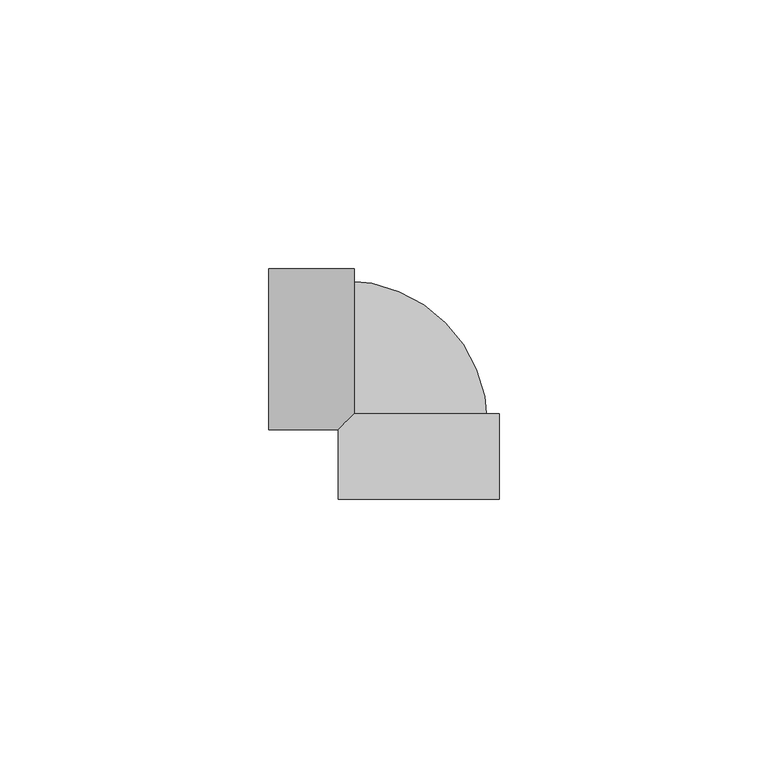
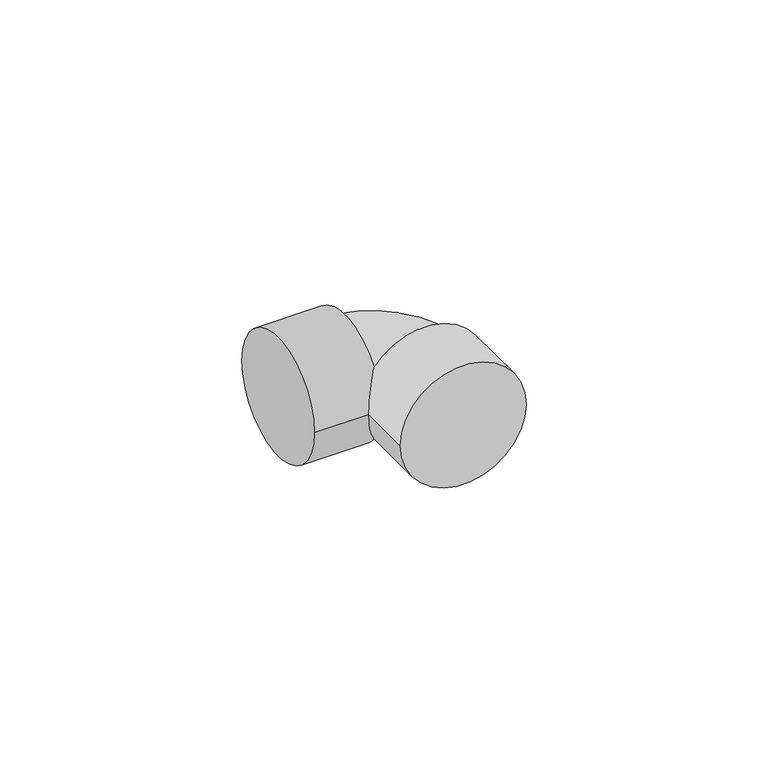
"""IFC4 building model written with IfcOpenShell, lengths in millimetres: pipe fitting geometry, 01011001 : Joelho a 90º."""

from ifc_helpers import new_model, si_unit, point, frame, origin, place, context, project, spatial, circle_curve, ellipse_curve, trimmed, source, transform, mapped, element, save
from ifc_brep_helpers import plane_surface, cylinder_surface, revolved_surface, advanced_brep


def pipe_fitting_4348b1cc(model_context):
    return source(origin(), model_context, "Body", "AdvancedBrep", [
        advanced_brep(
        [(-15.0, -28.0, 0.0), (15.0, -28.0, 0.0), (-12.0, -12.0, -9.0), (-12.0, -12.0, 9.0), (15.0, -12.0, 0.0), (-15.0, -15.0, 0.0), (-28.0, 15.0, 0.0), (-28.0, -15.0, 0.0), (-12.0, 15.0, 0.0)],
        [
            (0, 1, circle_curve(frame((0.0, -28.0, 0.0), z_axis=(0.0, -1.0, 0.0), x_axis=(1.0, 0.0, 0.0)), 15.0)),
            (1, 0, circle_curve(frame((0.0, -28.0, 0.0), z_axis=(0.0, -1.0, 0.0), x_axis=(1.0, 0.0, 0.0)), 15.0)),
            (2, 3),
            (3, 4, circle_curve(frame((0.0, -12.0, 0.0), z_axis=(0.0, 1.0, 0.0), x_axis=(1.0, 0.0, 0.0)), 15.0)),
            (4, 2, circle_curve(frame((0.0, -12.0, 0.0), z_axis=(0.0, 1.0, 0.0), x_axis=(1.0, 0.0, 0.0)), 15.0)),
            (1, 4),
            (3, 5, ellipse_curve(frame((0.0, 0.0, 0.0), z_axis=(0.7071067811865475, -0.7071067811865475, 0.0), x_axis=(-0.7071067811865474, -0.7071067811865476, 0.0)), 21.2132034, 15.0)),
            (5, 0),
            (5, 2, ellipse_curve(frame((0.0, 0.0, 0.0), z_axis=(0.7071067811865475, -0.7071067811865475, 0.0), x_axis=(-0.7071067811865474, -0.7071067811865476, 0.0)), 21.2132034, 15.0)),
            (6, 7, circle_curve(frame((-28.0, 0.0, 0.0), z_axis=(-1.0, 0.0, 0.0), x_axis=(0.0, -1.0, 0.0)), 15.0)),
            (7, 6, circle_curve(frame((-28.0, 0.0, 0.0), z_axis=(-1.0, 0.0, 0.0), x_axis=(0.0, -1.0, 0.0)), 15.0)),
            (8, 3, circle_curve(frame((-12.0, 0.0, 0.0), z_axis=(1.0, 0.0, 0.0), x_axis=(0.0, -1.0, 0.0)), 15.0)),
            (2, 8, circle_curve(frame((-12.0, 0.0, 0.0), z_axis=(1.0, 0.0, 0.0), x_axis=(0.0, -1.0, 0.0)), 15.0)),
            (7, 5),
            (8, 6),
        ],
        [
            plane_surface(frame((0.0, -28.0, 0.0), z_axis=(0.0, -1.0, 0.0), x_axis=(0.0, 0.0, 1.0))),
            plane_surface(frame((0.0, -12.0, 0.0), z_axis=(0.0, 1.0, 0.0), x_axis=(0.0, 0.0, 1.0))),
            cylinder_surface(frame((0.0, -28.0, 0.0), z_axis=(0.0, -1.0, 0.0), x_axis=(1.0, 0.0, 0.0)), 15.0),
            plane_surface(frame((-28.0, 0.0, 0.0), z_axis=(-1.0, 0.0, 0.0), x_axis=(0.0, 0.0, 1.0))),
            plane_surface(frame((-12.0, 0.0, 0.0), z_axis=(1.0, 0.0, 0.0), x_axis=(0.0, 0.0, 1.0))),
            cylinder_surface(frame((-28.0, 0.0, 0.0), z_axis=(-1.0, 0.0, 0.0), x_axis=(0.0, -1.0, 0.0)), 15.0),
        ],
        [
            (0, [[1, 2]]),
            (1, [[3, 4, 5]]),
            (2, [[6, -4, 7, 8, -2]]),
            (2, [[-8, 9, -5, -6, -1]]),
            (3, [[10, 11]]),
            (4, [[12, -3, 13]]),
            (5, [[14, -7, -12, 15, -11]]),
            (5, [[-15, -13, -9, -14, -10]]),
        ],
    ),
        advanced_brep(
        [(-12.75, -14.0, 0.0), (12.75, -14.0, 0.0), (-14.0, -12.75, 0.0), (-14.0, 12.75, 0.0)],
        [
            (0, 1, circle_curve(frame((0.0, -14.0, 0.0), z_axis=(0.0, -1.0, 0.0), x_axis=(1.0, 0.0, 0.0)), 12.75)),
            (1, 0, circle_curve(frame((0.0, -14.0, 0.0), z_axis=(0.0, -1.0, 0.0), x_axis=(1.0, 0.0, 0.0)), 12.75)),
            (2, 3, circle_curve(frame((-14.0, 0.0, 0.0), z_axis=(-1.0, 0.0, 0.0), x_axis=(0.0, 1.0, 0.0)), 12.75)),
            (3, 2, circle_curve(frame((-14.0, 0.0, 0.0), z_axis=(-1.0, 0.0, 0.0), x_axis=(0.0, 1.0, 0.0)), 12.75)),
            (2, 0, circle_curve(frame((-14.0, -14.0, 0.0), z_axis=(0.0, 0.0, -1.0), x_axis=(1.0, 0.0, 0.0)), 1.25)),
            (1, 3, circle_curve(frame((-14.0, -14.0, 0.0), z_axis=(0.0, 0.0, 1.0), x_axis=(1.0, 0.0, 0.0)), 26.75)),
        ],
        [
            plane_surface(frame((0.0, -14.0, 0.0), z_axis=(0.0, -1.0, 0.0), x_axis=(0.0, 0.0, 1.0))),
            plane_surface(frame((-14.0, 0.0, 0.0), z_axis=(-1.0, 0.0, 0.0), x_axis=(0.0, 0.0, 1.0))),
            revolved_surface(trimmed(ellipse_curve(frame((0.0, -14.0, 0.0), z_axis=(0.0, 1.0, 0.0), x_axis=(1.0, 0.0, 0.0)), 12.75, 12.75), [point((-12.75, -14.0, 0.0))], [point((12.75, -14.0, 0.0))], True, "CARTESIAN"), (-14.0, -14.0, 0.0), (0.0, 0.0, -1.0)),
            revolved_surface(trimmed(ellipse_curve(frame((0.0, -14.0, 0.0), z_axis=(0.0, 1.0, 0.0), x_axis=(1.0, 0.0, 0.0)), 12.75, 12.75), [point((12.75, -14.0, 0.0))], [point((-12.75, -14.0, 0.0))], True, "CARTESIAN"), (-14.0, -14.0, 0.0), (0.0, 0.0, -1.0)),
        ],
        [
            (0, [[1, 2]]),
            (1, [[3, 4]]),
            (2, [[-3, 5, -2, 6]]),
            (3, [[-4, -6, -1, -5]]),
        ],
    ),
    ])


if __name__ == "__main__":
    model = new_model("IFC4")
    model_context = context("Model", 3, world=origin())
    ifc_project = project(units=[si_unit("LENGTHUNIT", "METRE", prefix="MILLI")], contexts=[model_context])
    site = spatial("IfcSite", under=ifc_project)
    building = spatial("IfcBuilding", under=site)
    placement = place(None, origin())
    pipe_fitting_shape = pipe_fitting_4348b1cc(model_context)
    element("IfcPipeFitting", 1, ObjectType="01011001 : Joelho a 90º", at=placement, inside=building, context=model_context, shape_type="MappedRepresentation", body=[
        mapped(pipe_fitting_shape, transform((0.0, 0.0, 0.0), x_axis=(1.0, 0.0, 0.0), y_axis=(0.0, 1.0, 0.0), z_axis=(0.0, 0.0, 1.0))),
    ])
    save(model, "model.ifc")
